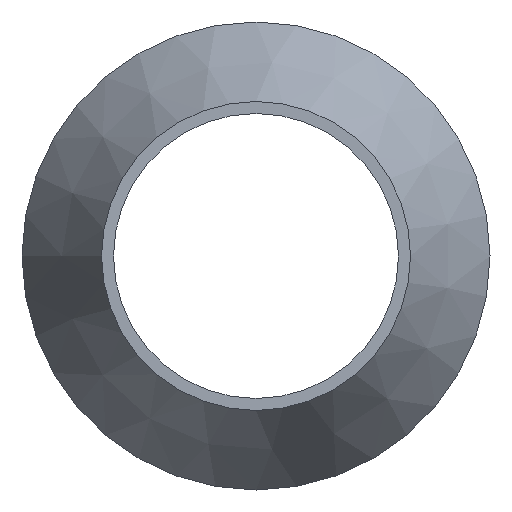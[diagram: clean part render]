
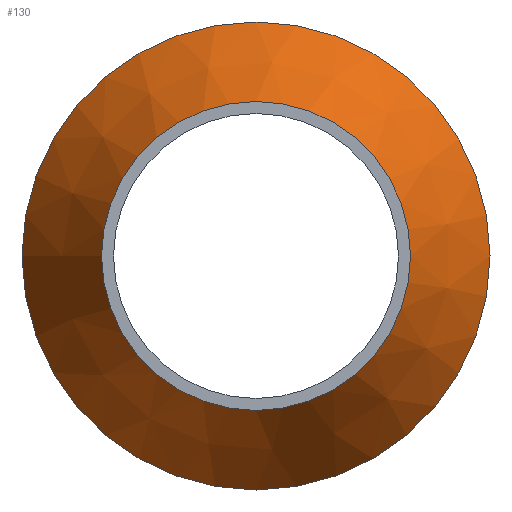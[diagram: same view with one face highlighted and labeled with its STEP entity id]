
A CAD part, left-side view. The second image highlights one B-rep face of the part: STEP entity #130.
In plain terms, the highlighted conical face has half-angle 30 degrees and reference radius 100.6 mm.
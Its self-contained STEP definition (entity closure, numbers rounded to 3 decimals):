
#27=FACE_BOUND($,#57,.T.);
#39=FACE_OUTER_BOUND($,#56,.T.);
#56=EDGE_LOOP($,(#111));
#57=EDGE_LOOP($,(#112));
#71=CIRCLE($,#151,80.);
#72=CIRCLE($,#153,121.2);
#82=VERTEX_POINT($,#227);
#83=VERTEX_POINT($,#230);
#93=EDGE_CURVE($,#82,#82,#71,.T.);
#94=EDGE_CURVE($,#83,#83,#72,.T.);
#111=ORIENTED_EDGE($,*,*,#94,.F.);
#112=ORIENTED_EDGE($,*,*,#93,.T.);
#122=CONICAL_SURFACE($,#152,100.6,30.);
#130=ADVANCED_FACE($,(#39,#27),#122,.T.);
#151=AXIS2_PLACEMENT_3D($,#228,#189,#190);
#152=AXIS2_PLACEMENT_3D($,#229,#191,#192);
#153=AXIS2_PLACEMENT_3D($,#231,#193,#194);
#189=DIRECTION('center_axis',(1.,0.,0.));
#190=DIRECTION('ref_axis',(0.,1.,0.));
#191=DIRECTION('center_axis',(1.,0.,0.));
#192=DIRECTION('ref_axis',(0.,1.,0.));
#193=DIRECTION('center_axis',(1.,0.,0.));
#194=DIRECTION('ref_axis',(0.,1.,0.));
#227=CARTESIAN_POINT('',(70.,80.,0.));
#228=CARTESIAN_POINT('Origin',(70.,0.,0.));
#229=CARTESIAN_POINT('Origin',(105.68,0.,0.));
#230=CARTESIAN_POINT('',(141.36,121.2,0.));
#231=CARTESIAN_POINT('Origin',(141.36,0.,0.));
